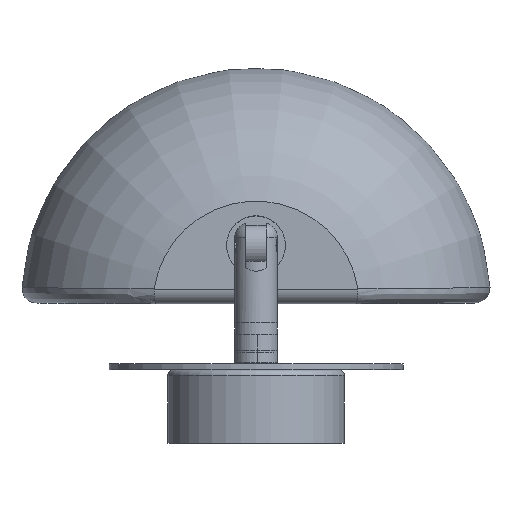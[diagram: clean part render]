
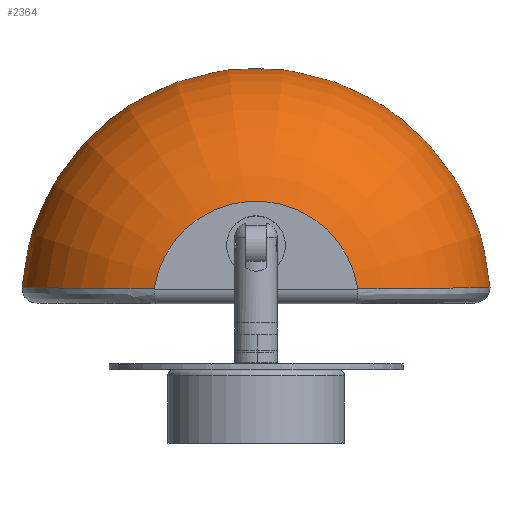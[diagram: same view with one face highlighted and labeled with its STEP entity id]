
A CAD part, front view. The second image highlights one B-rep face of the part: STEP entity #2364.
In plain terms, the highlighted toroidal (fillet/blend) face has major radius 19.854 mm and minor radius 60 mm.
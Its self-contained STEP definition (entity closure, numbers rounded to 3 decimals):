
#24 = VERTEX_POINT ( 'NONE', #283 ) ;
#42 = CARTESIAN_POINT ( 'NONE',  ( 78.055, 5.332, -44.109 ) ) ;
#248 = B_SPLINE_CURVE_WITH_KNOTS ( 'NONE', 3,
 ( #1087, #657, #3951, #3101, #4383, #623, #3081, #1023, #1437, #1469, #4750, #1491, #4345, #1906, #4732, #715, #306, #1540, #4813, #5278, #3212, #2388, #2012, #3604, #4886, #3166, #3179, #4851 ),
 .UNSPECIFIED., .F., .F.,
 ( 4, 2, 2, 2, 2, 2, 2, 2, 2, 2, 2, 2, 2, 4 ),
 ( 0., 0.011, 0.016, 0.018, 0.021, 0.032, 0.037, 0.042, 0.053, 0.063, 0.068, 0.071, 0.074, 0.084 ),
 .UNSPECIFIED. ) ;
#283 = CARTESIAN_POINT ( 'NONE',  ( -79.428, 5.334, -63.495 ) ) ;
#306 = CARTESIAN_POINT ( 'NONE',  ( -64.433, 5.307, -17.989 ) ) ;
#416 = CARTESIAN_POINT ( 'NONE',  ( 0., 0., 0. ) ) ;
#440 = CARTESIAN_POINT ( 'NONE',  ( -79.428, 5.334, -63.495 ) ) ;
#539 = AXIS2_PLACEMENT_3D ( 'NONE', #3407, #575, #3458 ) ;
#553 = CARTESIAN_POINT ( 'NONE',  ( 73.23, 5.324, -30.977 ) ) ;
#575 = DIRECTION ( 'NONE',  ( 0., 0., 1. ) ) ;
#612 = AXIS2_PLACEMENT_3D ( 'NONE', #2094, #3367, #2545 ) ;
#623 = CARTESIAN_POINT ( 'NONE',  ( -78.622, 5.332, -46.843 ) ) ;
#657 = CARTESIAN_POINT ( 'NONE',  ( -79.751, 5.334, -59.956 ) ) ;
#700 = CIRCLE ( 'NONE', #539, 79.607 ) ;
#715 = CARTESIAN_POINT ( 'NONE',  ( -66.702, 5.311, -20.667 ) ) ;
#788 = CARTESIAN_POINT ( 'NONE',  ( 79.428, 5.334, -63.495 ) ) ;
#844 = DIRECTION ( 'NONE',  ( 0., 0., 1. ) ) ;
#940 = VERTEX_POINT ( 'NONE', #1594 ) ;
#1023 = CARTESIAN_POINT ( 'NONE',  ( -78.067, 5.332, -44.243 ) ) ;
#1087 = CARTESIAN_POINT ( 'NONE',  ( -79.428, 5.334, -63.495 ) ) ;
#1128 = CARTESIAN_POINT ( 'NONE',  ( -79.428, 5.334, -63.495 ) ) ;
#1135 = B_SPLINE_CURVE_WITH_KNOTS ( 'NONE', 3,
 ( #2433, #4509, #4964, #2042, #1633, #1653, #2834, #1687, #2515, #4924, #4906, #4523, #1272, #2101, #4066, #4976, #553, #2491, #2455, #42, #2474, #3328, #2914, #1616, #2871, #788 ),
 .UNSPECIFIED., .F., .F.,
 ( 4, 2, 2, 2, 2, 2, 2, 2, 2, 2, 2, 2, 4 ),
 ( 0., 0.011, 0.016, 0.021, 0.032, 0.042, 0.045, 0.047, 0.053, 0.063, 0.068, 0.074, 0.084 ),
 .UNSPECIFIED. ) ;
#1191 = ORIENTED_EDGE ( 'NONE', *, *, #3381, .T. ) ;
#1232 = DIRECTION ( 'NONE',  ( 1., 0., 0. ) ) ;
#1236 = CARTESIAN_POINT ( 'NONE',  ( -79.428, 5.334, -63.495 ) ) ;
#1272 = CARTESIAN_POINT ( 'NONE',  ( 69.678, 5.317, -24.919 ) ) ;
#1437 = CARTESIAN_POINT ( 'NONE',  ( -77.855, 5.331, -43.38 ) ) ;
#1469 = CARTESIAN_POINT ( 'NONE',  ( -76.71, 5.329, -39.117 ) ) ;
#1491 = CARTESIAN_POINT ( 'NONE',  ( -73.29, 5.324, -31.094 ) ) ;
#1540 = CARTESIAN_POINT ( 'NONE',  ( -59.467, 5.295, -13.065 ) ) ;
#1594 = CARTESIAN_POINT ( 'NONE',  ( 79.428, 5.334, -63.495 ) ) ;
#1616 = CARTESIAN_POINT ( 'NONE',  ( 79.758, 5.334, -56.414 ) ) ;
#1633 = CARTESIAN_POINT ( 'NONE',  ( 47.709, 5.257, -5.038 ) ) ;
#1653 = CARTESIAN_POINT ( 'NONE',  ( 50.769, 5.268, -6.769 ) ) ;
#1675 = AXIS2_PLACEMENT_3D ( 'NONE', #416, #844, #1232 ) ;
#1687 = CARTESIAN_POINT ( 'NONE',  ( 56.658, 5.287, -10.73 ) ) ;
#1853 = ORIENTED_EDGE ( 'NONE', *, *, #3591, .T. ) ;
#1906 = CARTESIAN_POINT ( 'NONE',  ( -70.722, 5.319, -26.511 ) ) ;
#2012 = CARTESIAN_POINT ( 'NONE',  ( -47.799, 5.257, -5.107 ) ) ;
#2042 = CARTESIAN_POINT ( 'NONE',  ( 46.147, 5.251, -4.243 ) ) ;
#2094 = CARTESIAN_POINT ( 'NONE',  ( 0., 0., -58.057 ) ) ;
#2101 = CARTESIAN_POINT ( 'NONE',  ( 70.633, 5.319, -26.404 ) ) ;
#2146 = VERTEX_POINT ( 'NONE', #1128 ) ;
#2159 = FACE_OUTER_BOUND ( 'NONE', #3354, .T. ) ;
#2199 = VERTEX_POINT ( 'NONE', #3205 ) ;
#2326 = ORIENTED_EDGE ( 'NONE', *, *, #3498, .F. ) ;
#2364 = ADVANCED_FACE ( 'NONE', ( #2159 ), #3830, .T. ) ;
#2388 = CARTESIAN_POINT ( 'NONE',  ( -48.579, 5.26, -5.528 ) ) ;
#2433 = CARTESIAN_POINT ( 'NONE',  ( 34.614, 5.187, 0. ) ) ;
#2455 = CARTESIAN_POINT ( 'NONE',  ( 76.67, 5.329, -38.996 ) ) ;
#2474 = CARTESIAN_POINT ( 'NONE',  ( 78.444, 5.332, -45.849 ) ) ;
#2491 = CARTESIAN_POINT ( 'NONE',  ( 75.46, 5.327, -35.714 ) ) ;
#2515 = CARTESIAN_POINT ( 'NONE',  ( 59.361, 5.294, -12.971 ) ) ;
#2545 = DIRECTION ( 'NONE',  ( 1., 0., 0. ) ) ;
#2566 = EDGE_CURVE ( 'NONE', #2146, #24, #3115, .T. ) ;
#2800 = CARTESIAN_POINT ( 'NONE',  ( 79.428, 5.334, -63.495 ) ) ;
#2834 = CARTESIAN_POINT ( 'NONE',  ( 52.269, 5.273, -7.707 ) ) ;
#2871 = CARTESIAN_POINT ( 'NONE',  ( 79.751, 5.334, -59.954 ) ) ;
#2914 = CARTESIAN_POINT ( 'NONE',  ( 79.297, 5.333, -51.103 ) ) ;
#2966 = ORIENTED_EDGE ( 'NONE', *, *, #2566, .T. ) ;
#3081 = CARTESIAN_POINT ( 'NONE',  ( -78.45, 5.332, -45.975 ) ) ;
#3101 = CARTESIAN_POINT ( 'NONE',  ( -79.306, 5.333, -51.193 ) ) ;
#3115 = B_SPLINE_CURVE_WITH_KNOTS ( 'NONE', 3,
 ( #4128, #440, #3693, #1236 ),
 .UNSPECIFIED., .F., .F.,
 ( 4, 4 ),
 ( 0., 0. ),
 .UNSPECIFIED. ) ;
#3166 = CARTESIAN_POINT ( 'NONE',  ( -41.387, 5.229, -2.07 ) ) ;
#3179 = CARTESIAN_POINT ( 'NONE',  ( -38.054, 5.212, -0.889 ) ) ;
#3205 = CARTESIAN_POINT ( 'NONE',  ( 34.614, 5.187, 0. ) ) ;
#3212 = CARTESIAN_POINT ( 'NONE',  ( -50.89, 5.269, -6.842 ) ) ;
#3286 = CIRCLE ( 'NONE', #1675, 35. ) ;
#3328 = CARTESIAN_POINT ( 'NONE',  ( 79.064, 5.333, -49.343 ) ) ;
#3354 = EDGE_LOOP ( 'NONE', ( #3865, #2966, #1191, #2326, #1853, #3443 ) ) ;
#3367 = DIRECTION ( 'NONE',  ( 0., 0., 1. ) ) ;
#3381 = EDGE_CURVE ( 'NONE', #24, #3966, #248, .T. ) ;
#3407 = CARTESIAN_POINT ( 'NONE',  ( 0., 0., -63.495 ) ) ;
#3443 = ORIENTED_EDGE ( 'NONE', *, *, #3761, .T. ) ;
#3458 = DIRECTION ( 'NONE',  ( 1., 0., 0. ) ) ;
#3498 = EDGE_CURVE ( 'NONE', #2199, #3966, #3286, .T. ) ;
#3548 = CARTESIAN_POINT ( 'NONE',  ( 79.428, 5.334, -63.495 ) ) ;
#3591 = EDGE_CURVE ( 'NONE', #2199, #5316, #1135, .T. ) ;
#3604 = CARTESIAN_POINT ( 'NONE',  ( -46.219, 5.251, -4.299 ) ) ;
#3693 = CARTESIAN_POINT ( 'NONE',  ( -79.428, 5.334, -63.495 ) ) ;
#3761 = EDGE_CURVE ( 'NONE', #5316, #940, #4313, .T. ) ;
#3830 = TOROIDAL_SURFACE ( 'NONE', #612, 19.854, 60. ) ;
#3865 = ORIENTED_EDGE ( 'NONE', *, *, #4463, .T. ) ;
#3951 = CARTESIAN_POINT ( 'NONE',  ( -79.756, 5.334, -56.438 ) ) ;
#3966 = VERTEX_POINT ( 'NONE', #4549 ) ;
#4066 = CARTESIAN_POINT ( 'NONE',  ( 71.092, 5.32, -27.154 ) ) ;
#4128 = CARTESIAN_POINT ( 'NONE',  ( -79.428, 5.334, -63.495 ) ) ;
#4313 = B_SPLINE_CURVE_WITH_KNOTS ( 'NONE', 3,
 ( #2800, #4418, #5302, #5283 ),
 .UNSPECIFIED., .F., .F.,
 ( 4, 4 ),
 ( 0., 0. ),
 .UNSPECIFIED. ) ;
#4345 = CARTESIAN_POINT ( 'NONE',  ( -72.481, 5.322, -29.545 ) ) ;
#4383 = CARTESIAN_POINT ( 'NONE',  ( -79.08, 5.333, -49.45 ) ) ;
#4418 = CARTESIAN_POINT ( 'NONE',  ( 79.428, 5.334, -63.495 ) ) ;
#4463 = EDGE_CURVE ( 'NONE', #940, #2146, #700, .T. ) ;
#4509 = CARTESIAN_POINT ( 'NONE',  ( 38.055, 5.212, -0.889 ) ) ;
#4523 = CARTESIAN_POINT ( 'NONE',  ( 69.182, 5.316, -24.184 ) ) ;
#4549 = CARTESIAN_POINT ( 'NONE',  ( -34.614, 5.187, 0. ) ) ;
#4732 = CARTESIAN_POINT ( 'NONE',  ( -69.771, 5.317, -25.024 ) ) ;
#4750 = CARTESIAN_POINT ( 'NONE',  ( -75.508, 5.328, -35.834 ) ) ;
#4813 = CARTESIAN_POINT ( 'NONE',  ( -56.771, 5.288, -10.818 ) ) ;
#4851 = CARTESIAN_POINT ( 'NONE',  ( -34.614, 5.187, 0. ) ) ;
#4886 = CARTESIAN_POINT ( 'NONE',  ( -45.419, 5.247, -3.912 ) ) ;
#4906 = CARTESIAN_POINT ( 'NONE',  ( 66.616, 5.311, -20.559 ) ) ;
#4924 = CARTESIAN_POINT ( 'NONE',  ( 64.34, 5.306, -17.886 ) ) ;
#4964 = CARTESIAN_POINT ( 'NONE',  ( 41.367, 5.229, -2.065 ) ) ;
#4976 = CARTESIAN_POINT ( 'NONE',  ( 72.418, 5.322, -29.429 ) ) ;
#5278 = CARTESIAN_POINT ( 'NONE',  ( -52.393, 5.274, -7.787 ) ) ;
#5283 = CARTESIAN_POINT ( 'NONE',  ( 79.428, 5.334, -63.495 ) ) ;
#5302 = CARTESIAN_POINT ( 'NONE',  ( 79.428, 5.334, -63.495 ) ) ;
#5316 = VERTEX_POINT ( 'NONE', #3548 ) ;
